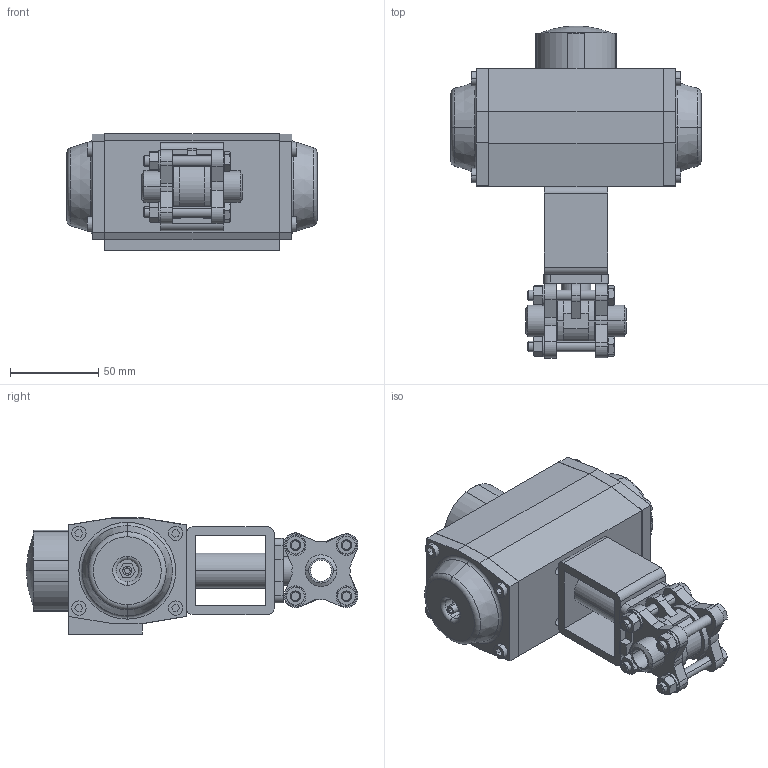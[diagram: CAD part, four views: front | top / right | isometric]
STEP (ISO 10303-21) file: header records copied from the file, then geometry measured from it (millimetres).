
FILE_DESCRIPTION (( 'STEP AP214' ), '1' );
FILE_NAME ('A13 DN8-1_4 BW + AP1.STEP', '2012-04-23T09:23:31', ( '' ), ( '' ), 'SwSTEP 2.0', 'SolidWorks 2011', '' );
FILE_SCHEMA (( 'AUTOMOTIVE_DESIGN' ));
Length unit declared in the file: millimetre
Products named in the file (9): AP1_Default<As Machined>; Brugstuk simplified_YB5050F3F3-3; A13 DN08 Buttweld; Hexagon Nut ISO 4032 - M6 - D - N_Hexagon Nut ISO 4032 - M6 - D - N; Spring washer DIN 128 - A6_Spring washer DIN 128 - A6; ISO 4014 - M6 x 45 x 18-N_ISO 4014 - M6 x 45 x 18-N; A13 Flens Buttweld DN08; A13 KK DN08 PN63; A13 DN8-1_4 BW + AP1
Assembly tree (18 placements, depth 3):
  A13 DN8-1_4 BW + AP1
    AP1_Default<As Machined>
    A13 DN08 Buttweld
      ISO 4014 - M6 x 45 x 18-N_ISO 4014 - M6 x 45 x 18-N  x4
      Spring washer DIN 128 - A6_Spring washer DIN 128 - A6  x4
      Hexagon Nut ISO 4032 - M6 - D - N_Hexagon Nut ISO 4032 - M6 - D - N  x4
      A13 Flens Buttweld DN08  x2
      A13 KK DN08 PN63
    Brugstuk simplified_YB5050F3F3-3
Bounding box: 142 x 188.49 x 66 mm (x, y, z)
Volume: 661110.3 mm3; surface area: 105130.8 mm2
Topology: 27 solids, 27 shells, 753 faces, 1771 edges, 1095 vertices
Faces by surface type: plane 370, cylinder 205, cone 148, torus 28, sphere 2
Entity records: 16695 total; most frequent: CARTESIAN_POINT 2826, DIRECTION 2636, ORIENTED_EDGE 2436, EDGE_CURVE 1218, AXIS2_PLACEMENT_3D 923, LINE 790, VECTOR 790, VERTEX_POINT 787
